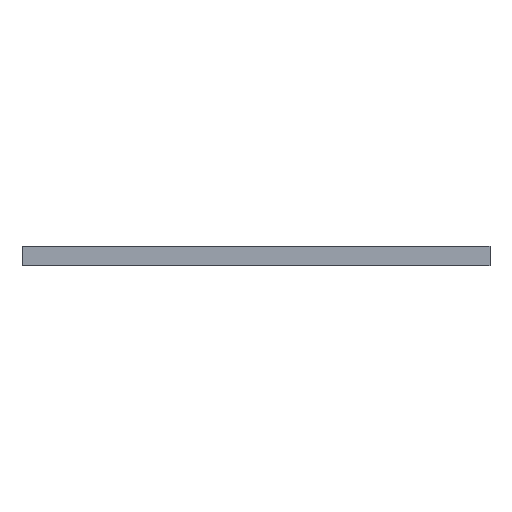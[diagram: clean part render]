
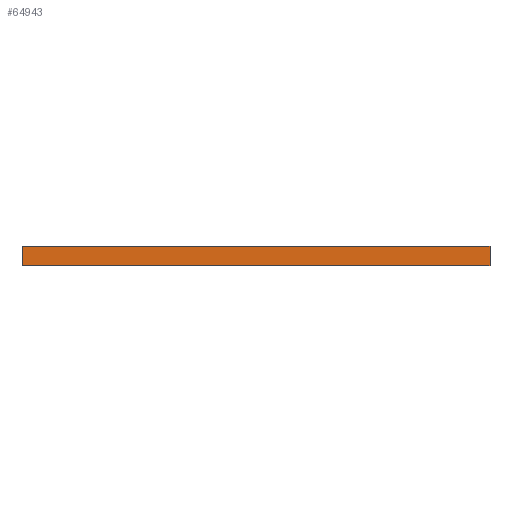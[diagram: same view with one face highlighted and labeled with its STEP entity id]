
A CAD part, front view. The second image highlights one B-rep face of the part: STEP entity #64943.
In plain terms, the highlighted planar face has unit normal (0, -1, 0).
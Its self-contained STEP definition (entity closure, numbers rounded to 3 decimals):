
#1560 = DIRECTION ( 'NONE',  ( 1., 0., 0. ) ) ;
#1820 = VERTEX_POINT ( 'NONE', #2749 ) ;
#1925 = VERTEX_POINT ( 'NONE', #67664 ) ;
#2749 = CARTESIAN_POINT ( 'NONE',  ( -12., -100., 0. ) ) ;
#7652 = VERTEX_POINT ( 'NONE', #70573 ) ;
#9422 = DIRECTION ( 'NONE',  ( 1., 0., 0. ) ) ;
#14407 = VECTOR ( 'NONE', #38601, 1000. ) ;
#14732 = VECTOR ( 'NONE', #9422, 1000. ) ;
#16289 = ORIENTED_EDGE ( 'NONE', *, *, #31684, .T. ) ;
#18550 = CARTESIAN_POINT ( 'NONE',  ( -12., -100., 0. ) ) ;
#20040 = EDGE_CURVE ( 'NONE', #1820, #1925, #68076, .T. ) ;
#23392 = AXIS2_PLACEMENT_3D ( 'NONE', #42551, #53396, #32420 ) ;
#28825 = CARTESIAN_POINT ( 'NONE',  ( -12., -100., 0.5 ) ) ;
#29620 = ORIENTED_EDGE ( 'NONE', *, *, #57691, .F. ) ;
#31684 = EDGE_CURVE ( 'NONE', #62716, #1820, #50509, .T. ) ;
#32420 = DIRECTION ( 'NONE',  ( -1., 0., 0. ) ) ;
#36867 = CARTESIAN_POINT ( 'NONE',  ( 0., -100., 0.5 ) ) ;
#36874 = VECTOR ( 'NONE', #52774, 1000. ) ;
#37627 = CARTESIAN_POINT ( 'NONE',  ( -12., -100., 0.5 ) ) ;
#38601 = DIRECTION ( 'NONE',  ( 0., 0., -1. ) ) ;
#41540 = EDGE_LOOP ( 'NONE', ( #64672, #29620, #44598, #16289 ) ) ;
#42309 = LINE ( 'NONE', #64355, #14732 ) ;
#42551 = CARTESIAN_POINT ( 'NONE',  ( -12., -100., 0.5 ) ) ;
#42911 = FACE_OUTER_BOUND ( 'NONE', #41540, .T. ) ;
#44598 = ORIENTED_EDGE ( 'NONE', *, *, #69798, .F. ) ;
#50509 = LINE ( 'NONE', #28825, #14407 ) ;
#52774 = DIRECTION ( 'NONE',  ( 0., 0., -1. ) ) ;
#53396 = DIRECTION ( 'NONE',  ( 0., 1., 0. ) ) ;
#57691 = EDGE_CURVE ( 'NONE', #7652, #1925, #63632, .T. ) ;
#62716 = VERTEX_POINT ( 'NONE', #37627 ) ;
#63632 = LINE ( 'NONE', #36867, #36874 ) ;
#64355 = CARTESIAN_POINT ( 'NONE',  ( -12., -100., 0.5 ) ) ;
#64672 = ORIENTED_EDGE ( 'NONE', *, *, #20040, .T. ) ;
#64943 = ADVANCED_FACE ( 'NONE', ( #42911 ), #70737, .F. ) ;
#67664 = CARTESIAN_POINT ( 'NONE',  ( 0., -100., 0. ) ) ;
#68076 = LINE ( 'NONE', #18550, #71551 ) ;
#69798 = EDGE_CURVE ( 'NONE', #62716, #7652, #42309, .T. ) ;
#70573 = CARTESIAN_POINT ( 'NONE',  ( 0., -100., 0.5 ) ) ;
#70737 = PLANE ( 'NONE',  #23392 ) ;
#71551 = VECTOR ( 'NONE', #1560, 1000. ) ;
